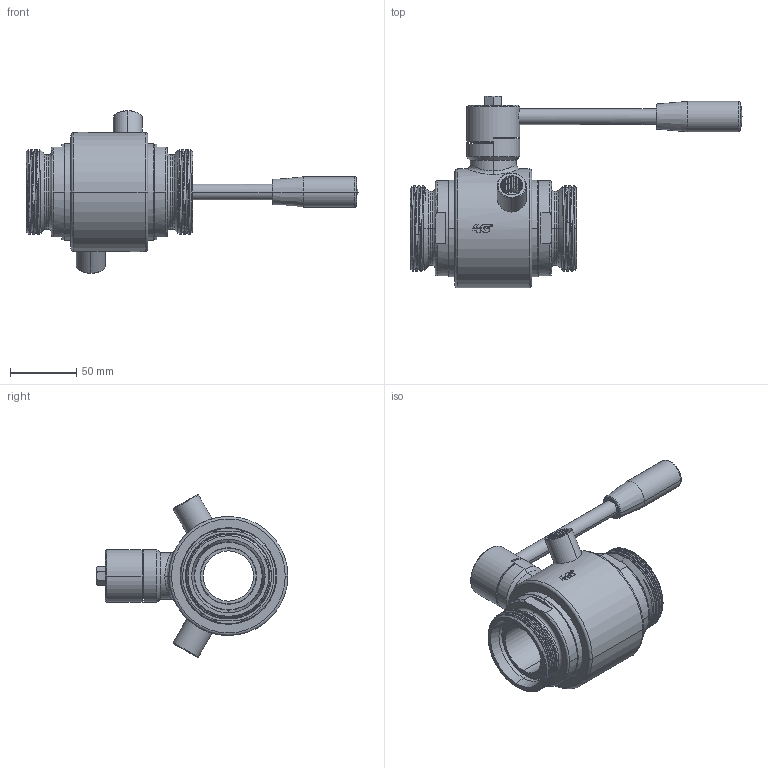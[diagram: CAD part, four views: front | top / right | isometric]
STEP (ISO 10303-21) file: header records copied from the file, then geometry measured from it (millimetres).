
FILE_DESCRIPTION((''),'2;1');
FILE_NAME('100125C63410','2024-01-22T16:16:26',('alfio.taboni'),('CDM Tecnoconsulting'),'CREO PARAMETRIC BY PTC INC, 2020053','CREO PARAMETRIC BY PTC INC, 2020053','');
FILE_SCHEMA(('CONFIG_CONTROL_DESIGN','SHAPE_APPEARANCE_LAYERS_GROUPS'));
Products named in the file (1): 100125C63410
Bounding box: 251 x 145 x 123.08 mm (x, y, z)
Volume: 444910.1 mm3; surface area: 146418.4 mm2
Topology: 1 solids, 1 shells, 1239 faces, 3369 edges, 2164 vertices
Faces by surface type: plane 518, cylinder 238, extrusion 221, bspline 115, cone 99, torus 42, sphere 6
Entity records: 96533 total; most frequent: CARTESIAN_POINT 55200, ORIENTED_EDGE 6686, DIRECTION 4703, PRESENTATION_STYLE_ASSIGNMENT 3692, STYLED_ITEM 3399, CURVE_STYLE 3398, EDGE_CURVE 3343, VERTEX_POINT 2164
